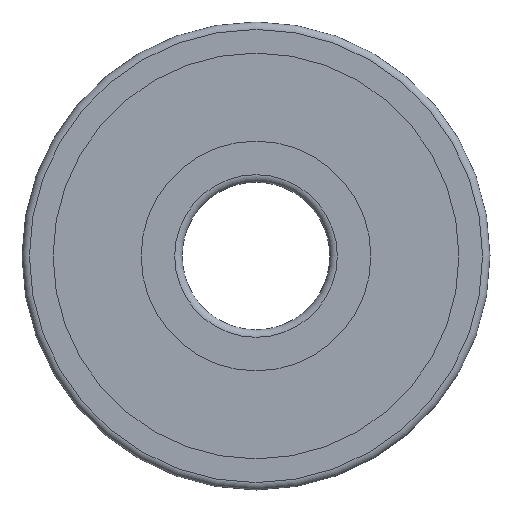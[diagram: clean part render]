
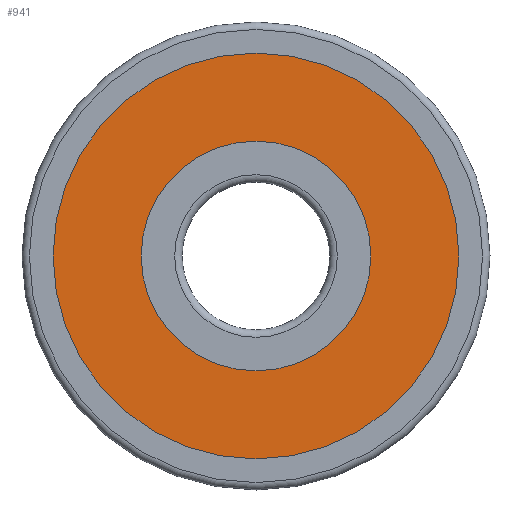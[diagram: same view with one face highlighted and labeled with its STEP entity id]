
A CAD part, left-side view. The second image highlights one B-rep face of the part: STEP entity #941.
In plain terms, the highlighted planar face has unit normal (-1, 0, 0).
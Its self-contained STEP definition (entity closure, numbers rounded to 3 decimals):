
#153=PLANE($,#1103);
#193=FACE_BOUND($,#332,.T.);
#194=FACE_BOUND($,#333,.T.);
#332=EDGE_LOOP($,(#874));
#333=EDGE_LOOP($,(#875));
#423=CIRCLE($,#1102,4.662);
#424=CIRCLE($,#1104,8.238);
#513=VERTEX_POINT($,#2398);
#514=VERTEX_POINT($,#2401);
#634=EDGE_CURVE($,#513,#513,#423,.T.);
#635=EDGE_CURVE($,#514,#514,#424,.T.);
#874=ORIENTED_EDGE($,*,*,#634,.T.);
#875=ORIENTED_EDGE($,*,*,#635,.F.);
#941=ADVANCED_FACE($,(#193,#194),#153,.T.);
#1102=AXIS2_PLACEMENT_3D($,#2399,#1419,#1420);
#1103=AXIS2_PLACEMENT_3D($,#2400,#1421,#1422);
#1104=AXIS2_PLACEMENT_3D($,#2402,#1423,#1424);
#1419=DIRECTION('center_axis',(1.,0.,0.));
#1420=DIRECTION('ref_axis',(0.,0.,-1.));
#1421=DIRECTION('center_axis',(-1.,0.,0.));
#1422=DIRECTION('ref_axis',(0.,0.,1.));
#1423=DIRECTION('center_axis',(1.,0.,0.));
#1424=DIRECTION('ref_axis',(0.,0.,-1.));
#2398=CARTESIAN_POINT('',(-3.,4.662,0.));
#2399=CARTESIAN_POINT('Origin',(-3.,0.,0.));
#2400=CARTESIAN_POINT('Origin',(-3.,8.238,0.));
#2401=CARTESIAN_POINT('',(-3.,8.238,0.));
#2402=CARTESIAN_POINT('Origin',(-3.,0.,0.));
